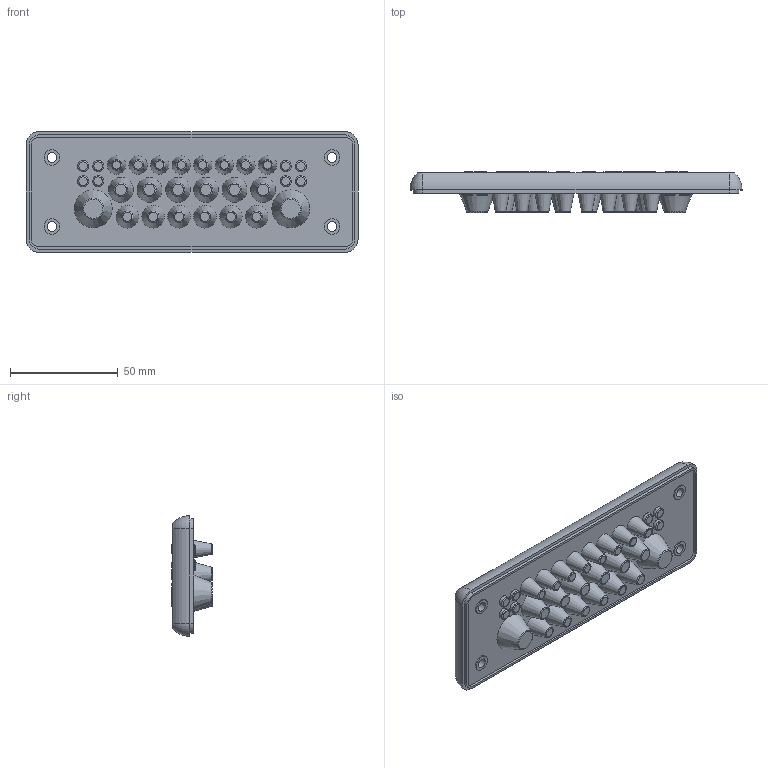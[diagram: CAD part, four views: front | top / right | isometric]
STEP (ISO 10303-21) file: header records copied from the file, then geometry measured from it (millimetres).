
FILE_DESCRIPTION(/* description */ ('STEP AP203'),/* implementation_level */ '2;1');
FILE_NAME(/* name */ '107658 MH-24 F 30-2',/* time_stamp */ '2024-10-07T12:30:31+02:00',/* author */ ('License CC BY-ND 4.0'),/* organization */ ('CADENAS'),/* preprocessor_version */ 'ST-DEVELOPER v19.3',/* originating_system */ 'PARTsolutions',/* authorisation */ ' ');
FILE_SCHEMA (('CONFIG_CONTROL_DESIGN'));
Length unit declared in the file: millimetre
Products named in the file (1): 107658 MH-24 F 30-2
Bounding box: 154 x 19 x 56 mm (x, y, z)
Volume: 82001.6 mm3; surface area: 25547.4 mm2
Topology: 1 solids, 1 shells, 210 faces, 406 edges, 268 vertices
Faces by surface type: plane 84, cone 64, torus 38, cylinder 24
Full cylindrical faces by diameter (mm): 4.5 x4, 7.2 x4
Entity records: 4630 total; most frequent: DIRECTION 902, CARTESIAN_POINT 711, ORIENTED_EDGE 532, AXIS2_PLACEMENT_3D 425, EDGE_LOOP 394, FACE_BOUND 394, EDGE_CURVE 266, VERTEX_POINT 234
